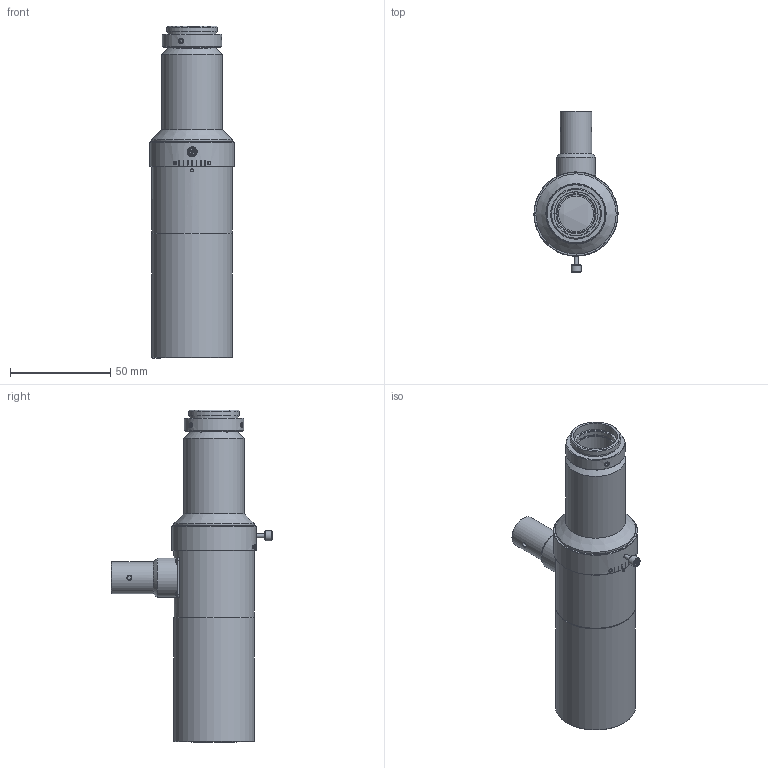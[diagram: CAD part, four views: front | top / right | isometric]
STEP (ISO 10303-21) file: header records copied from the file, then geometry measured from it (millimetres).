
FILE_DESCRIPTION(('STEP AP214'),'1');
FILE_NAME('TPC1-HMS110D-VIE-FIL.stp','2026-06-02T06:43:55',(' '),(' '),'Spatial InterOp 3D',' ',' ');
FILE_SCHEMA(('AUTOMOTIVE_DESIGN { 1 0 10303 214 1 1 1 1 }'));
Length unit declared in the file: metre
Products named in the file (2): TPC1-HMS110D-VIE-FIL; Component1
Assembly tree (1 placements, depth 2):
  TPC1-HMS110D-VIE-FIL
    Component1
Bounding box: 42 x 80.46 x 165.48 mm (x, y, z)
Volume: 70949.3 mm3; surface area: 47197.3 mm2
Topology: 1 solids, 19 shells, 582 faces, 1343 edges, 863 vertices
Faces by surface type: plane 267, cylinder 127, cone 124, bspline 48, torus 9, sphere 7
Full cylindrical faces by diameter (mm): 1.6 x5, 2 x10, 2.3 x4, 2.5 x5, 3.6 x1, 5 x1, 6 x1, 8 x1, 14 x1, 14.2 x1, 15.8 x1, 16 x1, 17 x1, 17.5 x2, 18.4 x1, 19 x1, 19.2 x1, 19.4 x1, 19.5 x1, 20.2 x1, 21.8 x1, 22 x1, 24 x4, 24.1 x1, 24.9 x1, 25.3 x1, 25.7 x1, 28 x1, 29.5 x1, 30 x1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
Entity records: 24294 total; most frequent: CARTESIAN_POINT 7594, DIRECTION 2429, ORIENTED_EDGE 2230, EDGE_CURVE 1115, AXIS2_PLACEMENT_3D 1046, EDGE_LOOP 845, VERTEX_POINT 809, FACE_OUTER_BOUND 680
